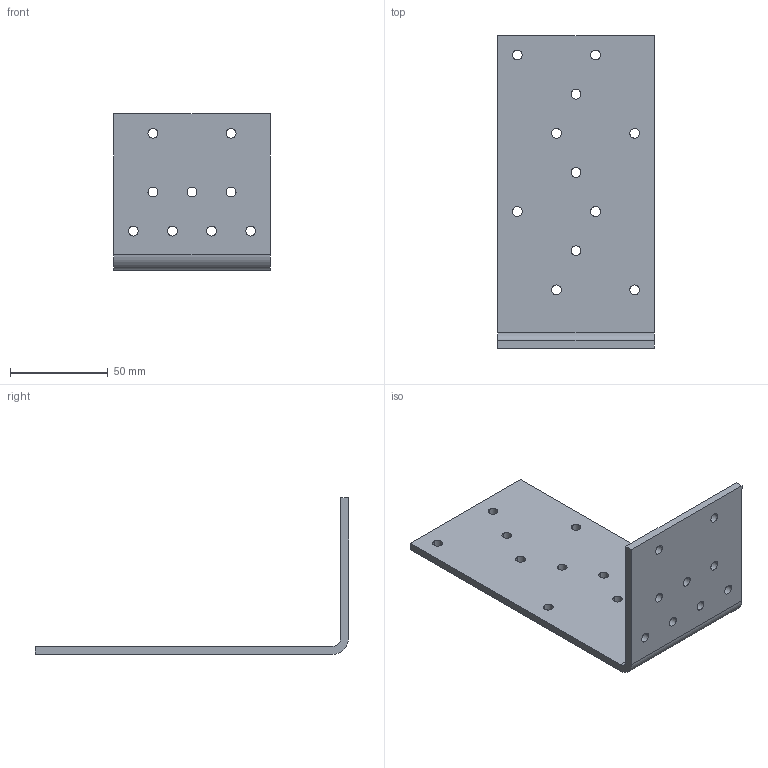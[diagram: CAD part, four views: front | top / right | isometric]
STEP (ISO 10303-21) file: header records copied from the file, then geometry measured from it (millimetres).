
FILE_DESCRIPTION (( 'STEP AP203' ), '1' );
FILE_NAME ('12116188.STEP', '2020-01-15T09:04:34', ( '' ), ( '' ), 'SwSTEP 2.0', 'SolidWorks 2013', '' );
FILE_SCHEMA (( 'CONFIG_CONTROL_DESIGN' ));
Length unit declared in the file: millimetre
Products named in the file (1): 12116188
Bounding box: 80 x 160 x 80 mm (x, y, z)
Volume: 73125.1 mm3; surface area: 40326.6 mm2
Topology: 1 solids, 1 shells, 50 faces, 144 edges, 96 vertices
Faces by surface type: cylinder 42, plane 8
Entity records: 1849 total; most frequent: DIRECTION 330, CARTESIAN_POINT 291, ORIENTED_EDGE 288, EDGE_CURVE 144, AXIS2_PLACEMENT_3D 135, VERTEX_POINT 96, EDGE_LOOP 90, CIRCLE 84
